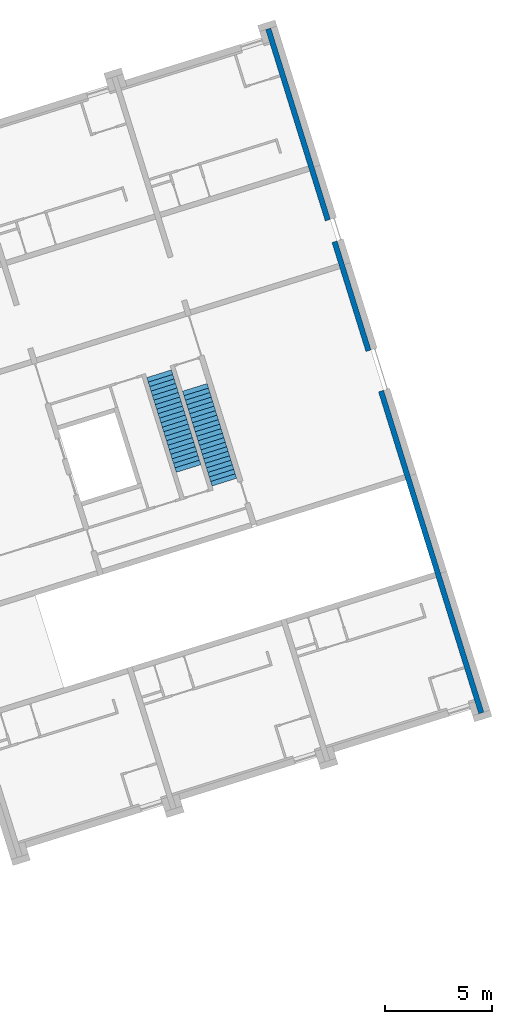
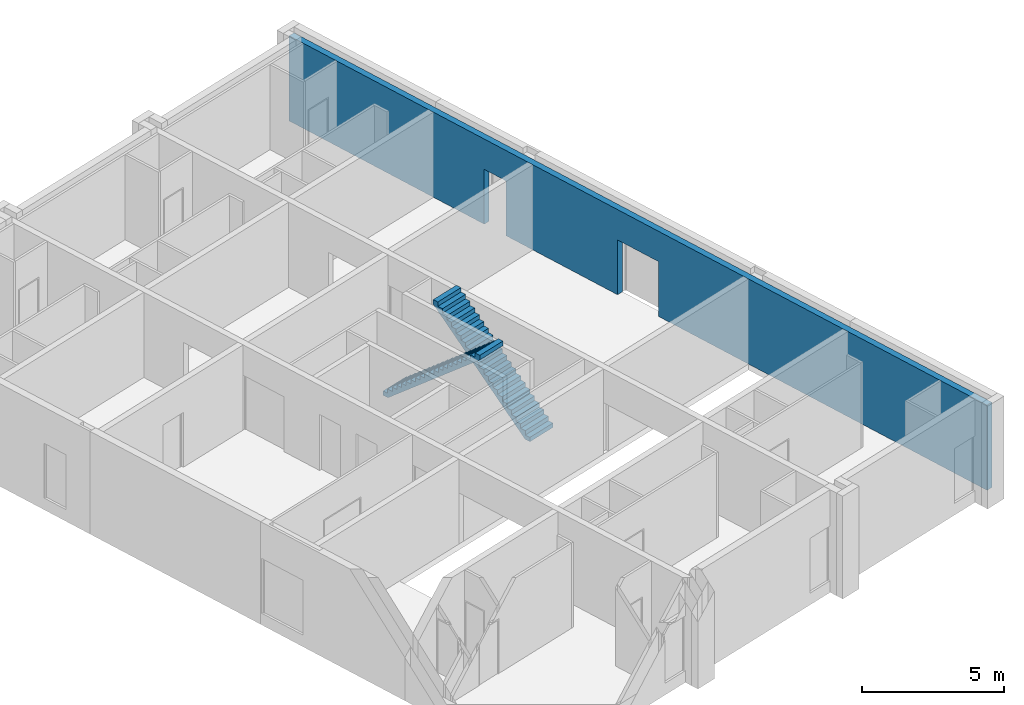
# One storey, part 9 of 10: 2 stair flights, 1 wall, 2 openings, 2 elements without a shape of their own.
"""IFC4 building model written with IfcOpenShell, lengths in metres."""

from ifc_helpers import new_model, entity, si_unit, converted_unit, direction, frame, origin, place, context, subcontext, project, spatial, indexed_curve, outline, extrude, polygons, material, type_object, element, aggregate, save


model = new_model("IFC4")

# Units and contexts
model_context = context("Model", 3, precision=1e-05, world=origin(), true_north=direction((6.12323399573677e-17, 1.0)))
body_context = subcontext(model_context, "Body", "Model", "MODEL_VIEW")
ifc_project = project(units=[si_unit("LENGTHUNIT", "METRE"), si_unit("AREAUNIT", "SQUARE_METRE"), si_unit("VOLUMEUNIT", "CUBIC_METRE"), converted_unit("PLANEANGLEUNIT", "DEGREE", entity("IfcPlaneAngleMeasure", 0.0174532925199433), si_unit("PLANEANGLEUNIT", "RADIAN"), dimensions=[0, 0, 0, 0, 0, 0, 0])], contexts=[model_context])

# Site, building, storey
site_placement = place(None, frame((13.1347999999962, 11.9886000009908, 0.0), z_axis=(0.0, 0.0, 1.0), x_axis=(0.954770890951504, 0.297342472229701, 0.0)))
site = spatial("IfcSite", under=ifc_project, at=site_placement, Name="Schiehaven", CompositionType="ELEMENT")
building_placement = place(site_placement, origin())
building = spatial("IfcBuilding", under=site, at=building_placement, Name="VORM huis", CompositionType="ELEMENT")
storey_placement = place(building_placement, origin())
storey = spatial("IfcBuildingStorey", under=building, at=storey_placement, Name="00 begane grond", CompositionType="ELEMENT", Elevation=0.0)

# Wall, openings
ifc_material_1 = material(Name="beton_gewapend_ihw", Category="Miscellaneous")
wall_type = type_object("IfcWallType", Name="Basic Wall:28_WA_skelet_wand 250mm_gen", PredefinedType="STANDARD")
wall_placement = place(storey_placement, frame((27.5, 0.374999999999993, 0.0), z_axis=(0.0, 0.0, 1.0), x_axis=(0.0, 1.0, 0.0)))
wall = element("IfcWall", 1, at=wall_placement, inside=storey, type_object=wall_type, material=ifc_material_1, Name="Constructieve wand", ObjectType="Wand", PredefinedType="NOTDEFINED", context=body_context, shape_type="Tessellation", body=[
    polygons([(3.38395977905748e-16, -0.125, 0.0), (6.77500000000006, -0.124999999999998, 0.0), (11.53, -0.124999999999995, 0.0), (15.6925, -0.124999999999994, 0.0), (15.6925, -0.124999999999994, 2.34999999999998), (17.6575, -0.124999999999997, 2.34999999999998), (17.6575, -0.124999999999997, 0.0), (21.825, -0.124999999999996, 0.0), (22.9749999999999, -0.124999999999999, 0.0), (22.9749999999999, -0.124999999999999, 2.34999999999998), (24.0249999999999, -0.124999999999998, 2.34999999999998), (24.0249999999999, -0.124999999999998, 0.0), (26.5749999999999, -0.124999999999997, 0.0), (33.35, -0.124999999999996, 0.0), (33.35, -0.124999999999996, 3.65), (22.3999999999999, -0.124999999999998, 3.65), (21.825, -0.124999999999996, 3.65), (11.53, -0.124999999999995, 3.65), (10.95, -0.124999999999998, 3.65), (3.38395977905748e-16, -0.125, 3.65), (15.6925, 0.125000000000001, 2.34999999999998), (15.6925, 0.125000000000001, 0.0), (6.76791955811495e-17, 0.125000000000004, 0.0), (6.76791955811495e-17, 0.125000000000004, 3.65), (33.35, 0.125000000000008, 3.65), (33.35, 0.125000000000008, 0.0), (24.0249999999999, 0.125000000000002, 0.0), (24.0249999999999, 0.125000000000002, 2.34999999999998), (22.9749999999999, 0.124999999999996, 2.34999999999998), (22.9749999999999, 0.124999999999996, 0.0), (17.6575, 0.125000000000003, 0.0), (17.6575, 0.125000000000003, 2.34999999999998)], [[[1, 2, 3, 4, 5, 6, 7, 8, 9, 10, 11, 12, 13, 14, 15, 16, 17, 18, 19, 20]], [[21, 22, 23, 24, 25, 26, 27, 28, 29, 30, 31, 32]], [[14, 13, 12, 27, 26]], [[15, 14, 26, 25]], [[20, 19, 18, 17, 16, 15, 25, 24]], [[1, 20, 24, 23]], [[30, 29, 10, 9]], [[28, 27, 12, 11]], [[29, 28, 11, 10]], [[7, 6, 32, 31]], [[5, 4, 22, 21]], [[6, 5, 21, 32]], [[23, 22, 4, 3, 2, 1]], [[31, 30, 9, 8, 7]]], closed=True),
])
opening_1_placement = place(wall_placement, origin())
element("IfcOpeningElement", 2, at=opening_1_placement, cuts=wall, Name="Vluchtdeur", PredefinedType="OPENING", context=body_context, shape_type="SweptSolid", body=[
    extrude(outline(indexed_curve([(-0.525000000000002, -1.17499999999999), (0.525000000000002, -1.17499999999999), (0.524999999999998, 1.17499999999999), (-0.525000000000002, 1.17499999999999), (-0.525000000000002, -1.17499999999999)], self_intersect=False)), frame((23.4999999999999, -1.64900000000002, 1.17499999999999), z_axis=(0.0, 1.0, 0.0), x_axis=(1.0, 0.0, 0.0)), (0.0, 0.0, 1.0), 3.048),
])
opening_2_placement = place(wall_placement, origin())
element("IfcOpeningElement", 3, at=opening_2_placement, cuts=wall, Name="Vluchtdeur", PredefinedType="OPENING", context=body_context, shape_type="SweptSolid", body=[
    extrude(outline(indexed_curve([(-1.17499999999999, -0.9825), (1.17499999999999, -0.982500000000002), (1.17499999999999, 0.982500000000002), (-1.17499999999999, 0.982500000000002), (-1.17499999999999, -0.9825)], self_intersect=False)), frame((16.675, -1.64900000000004, 1.17499999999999), z_axis=(0.0, 1.0, 0.0), x_axis=(0.0, 0.0, -1.0)), (0.0, 0.0, 1.0), 3.048),
])

# Stair, stair flight
stair_type = type_object("IfcStairType", Name="Trap", PredefinedType="STRAIGHT_RUN_STAIR")
stair_1_placement = place(storey_placement, origin())
stair_1 = element("IfcStair", 4, at=stair_1_placement, inside=storey, type_object=stair_type, Name="Hoofdtrap", ObjectType="Precast Stair:NLRS_24_STR_reguliere trap-woonfunctie-breedte 1200mm_gen", PredefinedType="STRAIGHT_RUN_STAIR")
ifc_material_2 = material(Name="beton_gewapend_prefab-element", Category="Miscellaneous")
stair_flight_type = type_object("IfcStairFlightType", Name="Monolithic Run:NLRS_24_STRR_trap-beton prefab-monolithisch-recht_gen_rsf", PredefinedType="STRAIGHT")
stair_flight_1_placement = place(stair_1_placement, frame((18.6750000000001, 14.19, 0.0)))
stair_flight_1 = element("IfcStairFlight", 5, at=stair_flight_1_placement, type_object=stair_flight_type, material=ifc_material_2, Name="Hoofdtrap Run 1", ObjectType="Monolithic Run:NLRS_24_STRR_trap-beton prefab-monolithisch-recht_gen_rsf", PredefinedType="STRAIGHT", context=body_context, shape_type="Tessellation", body=[
    polygons([(3.5527136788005e-15, 0.219999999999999, 0.185714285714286), (3.5527136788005e-15, 1.77635683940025e-15, 0.185714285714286), (1.2, 1.77635683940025e-15, 0.185714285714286), (1.2, 0.219999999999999, 0.185714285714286), (3.5527136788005e-15, 0.219999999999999, 0.0), (3.5527136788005e-15, 1.77635683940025e-15, 0.0), (1.2, 1.77635683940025e-15, 0.0), (1.2, 0.219999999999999, 0.0), (3.5527136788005e-15, 0.44, 0.371428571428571), (3.5527136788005e-15, 0.219999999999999, 0.371428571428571), (1.2, 0.219999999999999, 0.371428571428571), (1.2, 0.44, 0.371428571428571), (3.5527136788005e-15, 0.44, 0.175129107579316), (3.5527136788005e-15, 0.232539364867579, 0.0), (1.2, 0.232539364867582, 0.0), (1.2, 0.44, 0.175129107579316), (0.0, 0.660000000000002, 0.557142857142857), (3.5527136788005e-15, 0.44, 0.557142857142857), (1.2, 0.44, 0.557142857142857), (1.2, 0.660000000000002, 0.557142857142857), (3.5527136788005e-15, 0.66, 0.360843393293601), (1.2, 0.66, 0.360843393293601), (3.5527136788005e-15, 0.880000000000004, 0.742857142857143), (3.5527136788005e-15, 0.660000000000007, 0.742857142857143), (1.2, 0.660000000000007, 0.742857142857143), (1.2, 0.880000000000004, 0.742857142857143), (3.5527136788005e-15, 0.880000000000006, 0.546557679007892), (1.2, 0.880000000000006, 0.546557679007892), (3.5527136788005e-15, 1.1, 0.928571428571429), (3.5527136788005e-15, 0.880000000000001, 0.928571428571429), (1.2, 0.880000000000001, 0.928571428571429), (1.2, 1.1, 0.928571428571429), (3.5527136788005e-15, 1.1, 0.732271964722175), (1.2, 1.1, 0.732271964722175), (3.5527136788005e-15, 1.32, 1.11428571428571), (3.5527136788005e-15, 1.1, 1.11428571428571), (1.2, 1.1, 1.11428571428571), (1.2, 1.32, 1.11428571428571), (3.5527136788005e-15, 1.32, 0.917986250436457), (1.2, 1.32, 0.917986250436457), (3.5527136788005e-15, 1.54, 1.3), (3.5527136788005e-15, 1.32, 1.3), (1.2, 1.32, 1.3), (1.2, 1.54, 1.3), (3.5527136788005e-15, 1.54, 1.10370053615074), (1.2, 1.54, 1.10370053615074), (3.5527136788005e-15, 1.76, 1.48571428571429), (3.5527136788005e-15, 1.54, 1.48571428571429), (1.2, 1.54, 1.48571428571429), (1.2, 1.76, 1.48571428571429), (3.5527136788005e-15, 1.76, 1.28941482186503), (1.2, 1.76, 1.28941482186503), (3.5527136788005e-15, 1.98, 1.67142857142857), (3.5527136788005e-15, 1.76, 1.67142857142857), (1.2, 1.76, 1.67142857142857), (1.2, 1.98, 1.67142857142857), (3.5527136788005e-15, 1.98, 1.47512910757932), (1.2, 1.98, 1.47512910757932), (0.0, 2.2, 1.85714285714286), (3.5527136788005e-15, 1.98000000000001, 1.85714285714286), (1.2, 1.98000000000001, 1.85714285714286), (1.2, 2.2, 1.85714285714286), (3.5527136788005e-15, 2.20000000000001, 1.66084339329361), (1.2, 2.20000000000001, 1.66084339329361), (3.5527136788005e-15, 2.42, 2.04285714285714), (3.5527136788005e-15, 2.2, 2.04285714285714), (1.2, 2.2, 2.04285714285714), (1.2, 2.42, 2.04285714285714), (3.5527136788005e-15, 2.42, 1.84655767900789), (1.2, 2.42, 1.84655767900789), (3.5527136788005e-15, 2.64, 2.22857142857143), (3.5527136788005e-15, 2.42, 2.22857142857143), (1.2, 2.42, 2.22857142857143), (1.2, 2.64, 2.22857142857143), (3.5527136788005e-15, 2.64, 2.03227196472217), (1.2, 2.64, 2.03227196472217), (3.5527136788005e-15, 2.86, 2.41428571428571), (3.5527136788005e-15, 2.64, 2.41428571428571), (1.2, 2.64, 2.41428571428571), (1.2, 2.86, 2.41428571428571), (3.5527136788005e-15, 2.86, 2.21798625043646), (1.2, 2.86, 2.21798625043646), (3.5527136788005e-15, 3.08, 2.6), (3.5527136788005e-15, 2.86, 2.6), (1.2, 2.86, 2.6), (1.2, 3.08, 2.6), (3.5527136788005e-15, 3.08, 2.40370053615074), (1.2, 3.08, 2.40370053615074), (3.5527136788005e-15, 3.3, 2.78571428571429), (3.5527136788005e-15, 3.08, 2.78571428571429), (1.2, 3.08, 2.78571428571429), (1.2, 3.3, 2.78571428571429), (3.5527136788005e-15, 3.3, 2.58941482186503), (1.2, 3.3, 2.58941482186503), (3.5527136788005e-15, 3.52, 2.97142857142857), (3.5527136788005e-15, 3.3, 2.97142857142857), (1.2, 3.3, 2.97142857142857), (1.2, 3.52, 2.97142857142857), (3.5527136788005e-15, 3.52, 2.77512910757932), (1.2, 3.52, 2.77512910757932), (0.0, 3.74, 3.15714285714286), (3.5527136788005e-15, 3.52, 3.15714285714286), (1.2, 3.52, 3.15714285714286), (1.2, 3.74, 3.15714285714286), (3.5527136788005e-15, 3.73999999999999, 2.9608433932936), (1.2, 3.73999999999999, 2.9608433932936), (3.5527136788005e-15, 3.96, 3.34285714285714), (3.5527136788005e-15, 3.74000000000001, 3.34285714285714), (1.2, 3.74000000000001, 3.34285714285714), (1.2, 3.96, 3.34285714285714), (3.5527136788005e-15, 3.96000000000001, 3.14655767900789), (1.2, 3.96000000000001, 3.14655767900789), (3.5527136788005e-15, 4.18, 3.52857142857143), (3.5527136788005e-15, 3.96, 3.52857142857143), (1.2, 3.96, 3.52857142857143), (1.2, 4.18, 3.52857142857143), (3.5527136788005e-15, 4.18, 3.33227196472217), (1.2, 4.18, 3.33227196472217), (3.5527136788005e-15, 4.4, 3.71428571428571), (3.5527136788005e-15, 4.18, 3.71428571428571), (1.2, 4.18, 3.71428571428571), (1.2, 4.4, 3.71428571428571), (3.5527136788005e-15, 4.4, 3.51798625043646), (1.2, 4.4, 3.51798625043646), (3.5527136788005e-15, 4.62, 3.9), (3.5527136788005e-15, 4.4, 3.9), (1.2, 4.4, 3.9), (1.2, 4.62, 3.9), (3.5527136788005e-15, 4.62, 3.70370053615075), (1.2, 4.62, 3.70370053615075)], [[[1, 2, 3, 4]], [[2, 1, 5, 6]], [[3, 2, 6, 7]], [[4, 3, 7, 8]], [[9, 10, 11, 12]], [[5, 1, 10, 9, 13, 14]], [[1, 4, 11, 10]], [[4, 8, 15, 16, 12, 11]], [[17, 18, 19, 20]], [[18, 17, 21, 13, 9]], [[9, 12, 19, 18]], [[20, 19, 12, 16, 22]], [[23, 24, 25, 26]], [[24, 23, 27, 21, 17]], [[17, 20, 25, 24]], [[26, 25, 20, 22, 28]], [[29, 30, 31, 32]], [[30, 29, 33, 27, 23]], [[23, 26, 31, 30]], [[32, 31, 26, 28, 34]], [[35, 36, 37, 38]], [[36, 35, 39, 33, 29]], [[29, 32, 37, 36]], [[38, 37, 32, 34, 40]], [[41, 42, 43, 44]], [[42, 41, 45, 39, 35]], [[35, 38, 43, 42]], [[44, 43, 38, 40, 46]], [[47, 48, 49, 50]], [[48, 47, 51, 45, 41]], [[41, 44, 49, 48]], [[50, 49, 44, 46, 52]], [[53, 54, 55, 56]], [[54, 53, 57, 51, 47]], [[47, 50, 55, 54]], [[56, 55, 50, 52, 58]], [[59, 60, 61, 62]], [[60, 59, 63, 57, 53]], [[53, 56, 61, 60]], [[62, 61, 56, 58, 64]], [[65, 66, 67, 68]], [[66, 65, 69, 63, 59]], [[59, 62, 67, 66]], [[68, 67, 62, 64, 70]], [[71, 72, 73, 74]], [[72, 71, 75, 69, 65]], [[65, 68, 73, 72]], [[74, 73, 68, 70, 76]], [[77, 78, 79, 80]], [[78, 77, 81, 75, 71]], [[71, 74, 79, 78]], [[80, 79, 74, 76, 82]], [[83, 84, 85, 86]], [[84, 83, 87, 81, 77]], [[77, 80, 85, 84]], [[86, 85, 80, 82, 88]], [[89, 90, 91, 92]], [[90, 89, 93, 87, 83]], [[83, 86, 91, 90]], [[92, 91, 86, 88, 94]], [[95, 96, 97, 98]], [[96, 95, 99, 93, 89]], [[89, 92, 97, 96]], [[98, 97, 92, 94, 100]], [[101, 102, 103, 104]], [[102, 101, 105, 99, 95]], [[95, 98, 103, 102]], [[104, 103, 98, 100, 106]], [[107, 108, 109, 110]], [[108, 107, 111, 105, 101]], [[101, 104, 109, 108]], [[110, 109, 104, 106, 112]], [[113, 114, 115, 116]], [[114, 113, 117, 111, 107]], [[107, 110, 115, 114]], [[116, 115, 110, 112, 118]], [[119, 120, 121, 122]], [[120, 119, 123, 117, 113]], [[113, 116, 121, 120]], [[122, 121, 116, 118, 124]], [[125, 126, 127, 128]], [[126, 125, 129, 123, 119]], [[119, 122, 127, 126]], [[128, 127, 122, 124, 130]], [[125, 128, 130, 129]], [[6, 5, 14, 15, 8, 7]], [[15, 14, 13, 21, 27, 33, 39, 45, 51, 57, 63, 69, 75, 81, 87, 93, 99, 105, 111, 117, 123, 129, 130, 124, 118, 112, 106, 100, 94, 88, 82, 76, 70, 64, 58, 52, 46, 40, 34, 28, 22, 16]]], closed=True),
])
aggregate(stair_1, [stair_flight_1])

stair_2_placement = place(storey_placement, origin())
stair_2 = element("IfcStair", 6, at=stair_2_placement, inside=storey, type_object=stair_type, Name="Hoofdtrap", ObjectType="Precast Stair:NLRS_24_STR_reguliere trap-woonfunctie-breedte 1200mm_gen", PredefinedType="STRAIGHT_RUN_STAIR")
stair_flight_2_placement = place(stair_2_placement, frame((17.2750000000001, 15.29, 0.0)))
stair_flight_2 = element("IfcStairFlight", 7, at=stair_flight_2_placement, type_object=stair_flight_type, material=ifc_material_2, Name="Hoofdtrap Run 1", ObjectType="Monolithic Run:NLRS_24_STRR_trap-beton prefab-monolithisch-recht_gen_rsf", PredefinedType="STRAIGHT", context=body_context, shape_type="Tessellation", body=[
    polygons([(1.20000000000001, 4.4, 0.185714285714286), (1.20000000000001, 4.62, 0.185714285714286), (7.105427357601e-15, 4.62, 0.185714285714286), (7.105427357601e-15, 4.4, 0.185714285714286), (1.20000000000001, 4.4, 0.0), (1.20000000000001, 4.62, 0.0), (7.105427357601e-15, 4.62, 0.0), (7.105427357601e-15, 4.4, 0.0), (1.20000000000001, 4.18, 0.371428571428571), (1.20000000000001, 4.4, 0.371428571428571), (7.105427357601e-15, 4.4, 0.371428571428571), (7.105427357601e-15, 4.18, 0.371428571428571), (1.20000000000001, 4.18, 0.175129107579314), (1.20000000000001, 4.38746063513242, 0.0), (7.105427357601e-15, 4.38746063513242, 0.0), (7.105427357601e-15, 4.18, 0.175129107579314), (1.20000000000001, 3.96, 0.557142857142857), (1.20000000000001, 4.18, 0.557142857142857), (7.105427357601e-15, 4.18, 0.557142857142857), (7.105427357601e-15, 3.96, 0.557142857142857), (1.20000000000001, 3.96, 0.360843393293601), (7.105427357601e-15, 3.96, 0.360843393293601), (1.20000000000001, 3.73999999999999, 0.742857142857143), (1.20000000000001, 3.95999999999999, 0.742857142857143), (3.5527136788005e-15, 3.95999999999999, 0.742857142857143), (3.5527136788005e-15, 3.73999999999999, 0.742857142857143), (1.20000000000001, 3.73999999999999, 0.546557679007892), (3.5527136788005e-15, 3.73999999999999, 0.546557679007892), (1.20000000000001, 3.52, 0.928571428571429), (1.20000000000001, 3.73999999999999, 0.928571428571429), (3.5527136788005e-15, 3.73999999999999, 0.928571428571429), (3.5527136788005e-15, 3.52, 0.928571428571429), (1.20000000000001, 3.52, 0.732271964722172), (3.5527136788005e-15, 3.52, 0.732271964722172), (1.20000000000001, 3.3, 1.11428571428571), (1.20000000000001, 3.52, 1.11428571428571), (3.5527136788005e-15, 3.52, 1.11428571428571), (3.5527136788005e-15, 3.3, 1.11428571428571), (1.20000000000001, 3.3, 0.917986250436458), (3.5527136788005e-15, 3.3, 0.917986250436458), (1.20000000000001, 3.08, 1.3), (1.20000000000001, 3.3, 1.3), (3.5527136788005e-15, 3.3, 1.3), (3.5527136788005e-15, 3.08, 1.3), (1.20000000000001, 3.08, 1.10370053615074), (3.5527136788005e-15, 3.08, 1.10370053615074), (1.20000000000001, 2.86, 1.48571428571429), (1.20000000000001, 3.08, 1.48571428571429), (3.5527136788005e-15, 3.08, 1.48571428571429), (3.5527136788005e-15, 2.86, 1.48571428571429), (1.20000000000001, 2.86, 1.28941482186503), (3.5527136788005e-15, 2.86, 1.28941482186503), (1.20000000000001, 2.63999999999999, 1.67142857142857), (1.20000000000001, 2.86, 1.67142857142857), (3.5527136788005e-15, 2.86, 1.67142857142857), (3.5527136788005e-15, 2.63999999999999, 1.67142857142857), (1.20000000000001, 2.64, 1.47512910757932), (3.5527136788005e-15, 2.64, 1.47512910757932), (1.20000000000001, 2.41999999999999, 1.85714285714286), (1.20000000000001, 2.63999999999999, 1.85714285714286), (3.5527136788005e-15, 2.63999999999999, 1.85714285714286), (3.5527136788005e-15, 2.41999999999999, 1.85714285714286), (1.2, 2.41999999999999, 1.66084339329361), (3.5527136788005e-15, 2.41999999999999, 1.66084339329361), (1.2, 2.2, 2.04285714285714), (1.2, 2.42, 2.04285714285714), (0.0, 2.42, 2.04285714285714), (0.0, 2.2, 2.04285714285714), (1.2, 2.2, 1.84655767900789), (0.0, 2.2, 1.84655767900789), (1.2, 1.98, 2.22857142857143), (1.2, 2.2, 2.22857142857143), (0.0, 2.2, 2.22857142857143), (0.0, 1.98, 2.22857142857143), (1.2, 1.98, 2.03227196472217), (0.0, 1.98, 2.03227196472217), (1.2, 1.76, 2.41428571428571), (1.2, 1.98, 2.41428571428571), (0.0, 1.98, 2.41428571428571), (0.0, 1.76, 2.41428571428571), (1.2, 1.76, 2.21798625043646), (0.0, 1.76, 2.21798625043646), (1.2, 1.54, 2.6), (1.2, 1.76, 2.6), (0.0, 1.76, 2.6), (0.0, 1.54, 2.6), (1.2, 1.54, 2.40370053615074), (0.0, 1.54, 2.40370053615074), (1.2, 1.32, 2.78571428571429), (1.2, 1.54, 2.78571428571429), (0.0, 1.54, 2.78571428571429), (0.0, 1.32, 2.78571428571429), (1.2, 1.32, 2.58941482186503), (0.0, 1.32, 2.58941482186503), (1.2, 1.1, 2.97142857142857), (1.2, 1.32, 2.97142857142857), (0.0, 1.32, 2.97142857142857), (0.0, 1.1, 2.97142857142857), (1.2, 1.1, 2.77512910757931), (0.0, 1.1, 2.77512910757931), (1.2, 0.879999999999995, 3.15714285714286), (1.2, 1.1, 3.15714285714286), (0.0, 1.1, 3.15714285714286), (0.0, 0.879999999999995, 3.15714285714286), (1.2, 0.880000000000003, 2.9608433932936), (0.0, 0.880000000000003, 2.9608433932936), (1.2, 0.659999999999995, 3.34285714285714), (1.2, 0.879999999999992, 3.34285714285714), (0.0, 0.879999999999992, 3.34285714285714), (0.0, 0.659999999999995, 3.34285714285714), (1.2, 0.659999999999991, 3.14655767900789), (0.0, 0.659999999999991, 3.14655767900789), (1.2, 0.44, 3.52857142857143), (1.2, 0.659999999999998, 3.52857142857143), (0.0, 0.659999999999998, 3.52857142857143), (0.0, 0.44, 3.52857142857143), (1.2, 0.439999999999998, 3.33227196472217), (0.0, 0.439999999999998, 3.33227196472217), (1.2, 0.219999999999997, 3.71428571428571), (1.2, 0.44, 3.71428571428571), (0.0, 0.44, 3.71428571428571), (0.0, 0.219999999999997, 3.71428571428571), (1.2, 0.219999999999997, 3.51798625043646), (0.0, 0.219999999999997, 3.51798625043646), (1.2, -1.77635683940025e-15, 3.9), (1.2, 0.219999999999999, 3.9), (0.0, 0.219999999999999, 3.9), (0.0, -1.77635683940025e-15, 3.9), (1.2, -1.77635683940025e-15, 3.70370053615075), (0.0, -1.77635683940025e-15, 3.70370053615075)], [[[1, 2, 3, 4]], [[2, 1, 5, 6]], [[3, 2, 6, 7]], [[4, 3, 7, 8]], [[9, 10, 11, 12]], [[5, 1, 10, 9, 13, 14]], [[1, 4, 11, 10]], [[4, 8, 15, 16, 12, 11]], [[17, 18, 19, 20]], [[18, 17, 21, 13, 9]], [[9, 12, 19, 18]], [[20, 19, 12, 16, 22]], [[23, 24, 25, 26]], [[24, 23, 27, 21, 17]], [[17, 20, 25, 24]], [[26, 25, 20, 22, 28]], [[29, 30, 31, 32]], [[30, 29, 33, 27, 23]], [[23, 26, 31, 30]], [[32, 31, 26, 28, 34]], [[35, 36, 37, 38]], [[36, 35, 39, 33, 29]], [[29, 32, 37, 36]], [[38, 37, 32, 34, 40]], [[41, 42, 43, 44]], [[42, 41, 45, 39, 35]], [[35, 38, 43, 42]], [[44, 43, 38, 40, 46]], [[47, 48, 49, 50]], [[48, 47, 51, 45, 41]], [[41, 44, 49, 48]], [[50, 49, 44, 46, 52]], [[53, 54, 55, 56]], [[54, 53, 57, 51, 47]], [[47, 50, 55, 54]], [[56, 55, 50, 52, 58]], [[59, 60, 61, 62]], [[60, 59, 63, 57, 53]], [[53, 56, 61, 60]], [[62, 61, 56, 58, 64]], [[65, 66, 67, 68]], [[66, 65, 69, 63, 59]], [[59, 62, 67, 66]], [[68, 67, 62, 64, 70]], [[71, 72, 73, 74]], [[72, 71, 75, 69, 65]], [[65, 68, 73, 72]], [[74, 73, 68, 70, 76]], [[77, 78, 79, 80]], [[78, 77, 81, 75, 71]], [[71, 74, 79, 78]], [[80, 79, 74, 76, 82]], [[83, 84, 85, 86]], [[84, 83, 87, 81, 77]], [[77, 80, 85, 84]], [[86, 85, 80, 82, 88]], [[89, 90, 91, 92]], [[90, 89, 93, 87, 83]], [[83, 86, 91, 90]], [[92, 91, 86, 88, 94]], [[95, 96, 97, 98]], [[96, 95, 99, 93, 89]], [[89, 92, 97, 96]], [[98, 97, 92, 94, 100]], [[101, 102, 103, 104]], [[102, 101, 105, 99, 95]], [[95, 98, 103, 102]], [[104, 103, 98, 100, 106]], [[107, 108, 109, 110]], [[108, 107, 111, 105, 101]], [[101, 104, 109, 108]], [[110, 109, 104, 106, 112]], [[113, 114, 115, 116]], [[114, 113, 117, 111, 107]], [[107, 110, 115, 114]], [[116, 115, 110, 112, 118]], [[119, 120, 121, 122]], [[120, 119, 123, 117, 113]], [[113, 116, 121, 120]], [[122, 121, 116, 118, 124]], [[125, 126, 127, 128]], [[126, 125, 129, 123, 119]], [[119, 122, 127, 126]], [[128, 127, 122, 124, 130]], [[125, 128, 130, 129]], [[6, 5, 14, 15, 8, 7]], [[15, 14, 13, 21, 27, 33, 39, 45, 51, 57, 63, 69, 75, 81, 87, 93, 99, 105, 111, 117, 123, 129, 130, 124, 118, 112, 106, 100, 94, 88, 82, 76, 70, 64, 58, 52, 46, 40, 34, 28, 22, 16]]], closed=True),
])
aggregate(stair_2, [stair_flight_2])

save(model, "model.ifc")
